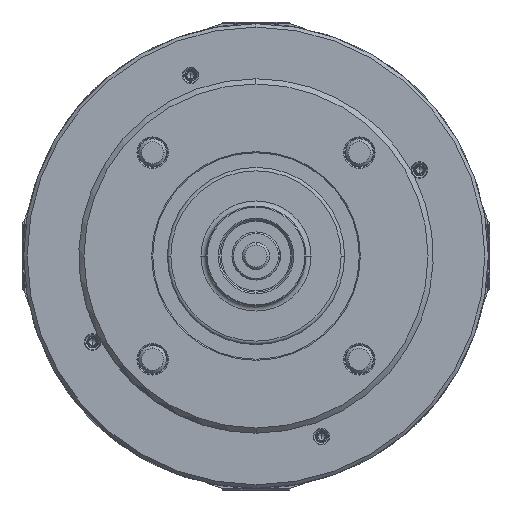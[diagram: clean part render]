
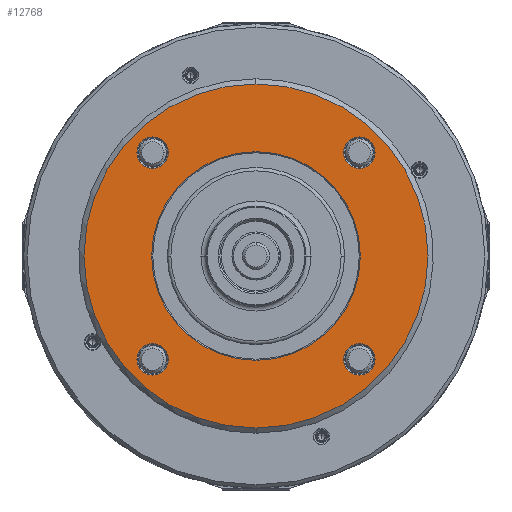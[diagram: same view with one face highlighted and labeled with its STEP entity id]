
A CAD part, left-side view. The second image highlights one B-rep face of the part: STEP entity #12768.
In plain terms, the highlighted planar face has unit normal (-1, 0, 0).
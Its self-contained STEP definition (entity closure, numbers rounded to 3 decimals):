
#11 = DIRECTION ( 'NONE',  ( 1., 0., 0. ) ) ;
#1494 = VERTEX_POINT ( 'NONE', #15306 ) ;
#1952 = AXIS2_PLACEMENT_3D ( 'NONE', #45079, #110933, #64283 ) ;
#2294 = AXIS2_PLACEMENT_3D ( 'NONE', #62689, #18392, #27137 ) ;
#2851 = AXIS2_PLACEMENT_3D ( 'NONE', #110390, #111535, #31061 ) ;
#4892 = DIRECTION ( 'NONE',  ( 1., 0., 0. ) ) ;
#6577 = EDGE_CURVE ( 'NONE', #66851, #54886, #70443, .T. ) ;
#7500 = ORIENTED_EDGE ( 'NONE', *, *, #6577, .F. ) ;
#7540 = CARTESIAN_POINT ( 'NONE',  ( -110., -60.104, 69.204 ) ) ;
#7806 = VERTEX_POINT ( 'NONE', #68821 ) ;
#8336 = CIRCLE ( 'NONE', #77269, 9.1 ) ;
#9344 = FACE_OUTER_BOUND ( 'NONE', #30847, .T. ) ;
#10480 = FACE_BOUND ( 'NONE', #79401, .T. ) ;
#10573 = DIRECTION ( 'NONE',  ( 1., 0., 0. ) ) ;
#11273 = CIRCLE ( 'NONE', #52216, 9.1 ) ;
#12768 = ADVANCED_FACE ( 'NONE', ( #10480, #62390, #79902, #89215, #9344, #90374 ), #63547, .F. ) ;
#13008 = DIRECTION ( 'NONE',  ( 1., 0., 0. ) ) ;
#15306 = CARTESIAN_POINT ( 'NONE',  ( -110., 60.104, -51.004 ) ) ;
#18392 = DIRECTION ( 'NONE',  ( 1., 0., 0. ) ) ;
#18476 = CARTESIAN_POINT ( 'NONE',  ( -110., 0., 0. ) ) ;
#22985 = CARTESIAN_POINT ( 'NONE',  ( -110., -60.104, -51.004 ) ) ;
#25810 = DIRECTION ( 'NONE',  ( 1., 0., 0. ) ) ;
#26536 = CARTESIAN_POINT ( 'NONE',  ( -110., 0., 100. ) ) ;
#26648 = CARTESIAN_POINT ( 'NONE',  ( -110., -60.104, -69.204 ) ) ;
#27137 = DIRECTION ( 'NONE',  ( 0., 0., -1. ) ) ;
#27394 = ORIENTED_EDGE ( 'NONE', *, *, #93627, .T. ) ;
#27905 = CIRCLE ( 'NONE', #63291, 60.6 ) ;
#28078 = CIRCLE ( 'NONE', #1952, 100. ) ;
#29942 = ORIENTED_EDGE ( 'NONE', *, *, #95204, .T. ) ;
#30562 = CARTESIAN_POINT ( 'NONE',  ( -110., 0., -60.6 ) ) ;
#30847 = EDGE_LOOP ( 'NONE', ( #7500, #43004 ) ) ;
#31061 = DIRECTION ( 'NONE',  ( 0., 0., -1. ) ) ;
#31599 = CIRCLE ( 'NONE', #80005, 60.6 ) ;
#32443 = VERTEX_POINT ( 'NONE', #30562 ) ;
#33305 = CARTESIAN_POINT ( 'NONE',  ( -110., 60.104, -60.104 ) ) ;
#33614 = CARTESIAN_POINT ( 'NONE',  ( -110., -60.104, 51.004 ) ) ;
#37308 = CARTESIAN_POINT ( 'NONE',  ( -110., -100., 0. ) ) ;
#38439 = EDGE_CURVE ( 'NONE', #82861, #43094, #8336, .T. ) ;
#38503 = ORIENTED_EDGE ( 'NONE', *, *, #77166, .T. ) ;
#38579 = VERTEX_POINT ( 'NONE', #26648 ) ;
#40955 = CARTESIAN_POINT ( 'NONE',  ( -110., 60.104, 60.104 ) ) ;
#43004 = ORIENTED_EDGE ( 'NONE', *, *, #60801, .F. ) ;
#43094 = VERTEX_POINT ( 'NONE', #33614 ) ;
#45047 = CARTESIAN_POINT ( 'NONE',  ( -110., -60.104, -60.104 ) ) ;
#45079 = CARTESIAN_POINT ( 'NONE',  ( -110., 0., 0. ) ) ;
#45584 = DIRECTION ( 'NONE',  ( 0., 0., -1. ) ) ;
#48350 = ORIENTED_EDGE ( 'NONE', *, *, #58161, .T. ) ;
#48975 = CIRCLE ( 'NONE', #112320, 9.1 ) ;
#49469 = CIRCLE ( 'NONE', #2851, 9.1 ) ;
#51568 = EDGE_CURVE ( 'NONE', #32443, #99676, #27905, .T. ) ;
#52216 = AXIS2_PLACEMENT_3D ( 'NONE', #40955, #103332, #60146 ) ;
#52503 = DIRECTION ( 'NONE',  ( 1., 0., 0. ) ) ;
#52548 = CIRCLE ( 'NONE', #2294, 9.1 ) ;
#54886 = VERTEX_POINT ( 'NONE', #26536 ) ;
#55341 = CARTESIAN_POINT ( 'NONE',  ( -110., 60.104, 69.204 ) ) ;
#58161 = EDGE_CURVE ( 'NONE', #1494, #7806, #49469, .T. ) ;
#60146 = DIRECTION ( 'NONE',  ( 0., 0., -1. ) ) ;
#60490 = ORIENTED_EDGE ( 'NONE', *, *, #62879, .T. ) ;
#60518 = VERTEX_POINT ( 'NONE', #109922 ) ;
#60801 = EDGE_CURVE ( 'NONE', #54886, #66851, #28078, .T. ) ;
#60937 = EDGE_CURVE ( 'NONE', #72399, #60518, #11273, .T. ) ;
#62390 = FACE_BOUND ( 'NONE', #92945, .T. ) ;
#62484 = EDGE_LOOP ( 'NONE', ( #74296, #60490 ) ) ;
#62689 = CARTESIAN_POINT ( 'NONE',  ( -110., 60.104, 60.104 ) ) ;
#62879 = EDGE_CURVE ( 'NONE', #60518, #72399, #52548, .T. ) ;
#63291 = AXIS2_PLACEMENT_3D ( 'NONE', #18476, #72114, #108854 ) ;
#63305 = CARTESIAN_POINT ( 'NONE',  ( -110., 0., 60.6 ) ) ;
#63547 = PLANE ( 'NONE',  #95245 ) ;
#64108 = DIRECTION ( 'NONE',  ( 0., 0., -1. ) ) ;
#64124 = DIRECTION ( 'NONE',  ( 0., 0., -1. ) ) ;
#64283 = DIRECTION ( 'NONE',  ( 0., 0., -1. ) ) ;
#65770 = ORIENTED_EDGE ( 'NONE', *, *, #51568, .T. ) ;
#65806 = EDGE_LOOP ( 'NONE', ( #27394, #65770 ) ) ;
#66851 = VERTEX_POINT ( 'NONE', #100355 ) ;
#67809 = DIRECTION ( 'NONE',  ( 0., 0., -1. ) ) ;
#68821 = CARTESIAN_POINT ( 'NONE',  ( -110., 60.104, -69.204 ) ) ;
#70443 = CIRCLE ( 'NONE', #76045, 100. ) ;
#72114 = DIRECTION ( 'NONE',  ( 1., 0., 0. ) ) ;
#72399 = VERTEX_POINT ( 'NONE', #55341 ) ;
#74296 = ORIENTED_EDGE ( 'NONE', *, *, #60937, .T. ) ;
#76045 = AXIS2_PLACEMENT_3D ( 'NONE', #82760, #91531, #64108 ) ;
#77166 = EDGE_CURVE ( 'NONE', #38579, #90013, #98582, .T. ) ;
#77269 = AXIS2_PLACEMENT_3D ( 'NONE', #93234, #112449, #112999 ) ;
#77740 = CARTESIAN_POINT ( 'NONE',  ( -110., -60.104, 60.104 ) ) ;
#79401 = EDGE_LOOP ( 'NONE', ( #48350, #88779 ) ) ;
#79902 = FACE_BOUND ( 'NONE', #94652, .T. ) ;
#80005 = AXIS2_PLACEMENT_3D ( 'NONE', #111550, #13008, #67809 ) ;
#81842 = AXIS2_PLACEMENT_3D ( 'NONE', #90468, #10573, #45584 ) ;
#82301 = CIRCLE ( 'NONE', #114037, 9.1 ) ;
#82760 = CARTESIAN_POINT ( 'NONE',  ( -110., 0., 0. ) ) ;
#82861 = VERTEX_POINT ( 'NONE', #7540 ) ;
#86504 = DIRECTION ( 'NONE',  ( 0., 0., -1. ) ) ;
#88779 = ORIENTED_EDGE ( 'NONE', *, *, #109030, .T. ) ;
#89215 = FACE_BOUND ( 'NONE', #62484, .T. ) ;
#90013 = VERTEX_POINT ( 'NONE', #22985 ) ;
#90374 = FACE_BOUND ( 'NONE', #65806, .T. ) ;
#90468 = CARTESIAN_POINT ( 'NONE',  ( -110., -60.104, -60.104 ) ) ;
#91531 = DIRECTION ( 'NONE',  ( 1., 0., 0. ) ) ;
#92945 = EDGE_LOOP ( 'NONE', ( #98650, #38503 ) ) ;
#93234 = CARTESIAN_POINT ( 'NONE',  ( -110., -60.104, 60.104 ) ) ;
#93627 = EDGE_CURVE ( 'NONE', #99676, #32443, #31599, .T. ) ;
#94652 = EDGE_LOOP ( 'NONE', ( #110004, #29942 ) ) ;
#95204 = EDGE_CURVE ( 'NONE', #43094, #82861, #106452, .T. ) ;
#95245 = AXIS2_PLACEMENT_3D ( 'NONE', #37308, #11, #64124 ) ;
#95387 = EDGE_CURVE ( 'NONE', #90013, #38579, #82301, .T. ) ;
#95686 = DIRECTION ( 'NONE',  ( 0., 0., -1. ) ) ;
#96969 = DIRECTION ( 'NONE',  ( 0., 0., -1. ) ) ;
#98582 = CIRCLE ( 'NONE', #81842, 9.1 ) ;
#98650 = ORIENTED_EDGE ( 'NONE', *, *, #95387, .T. ) ;
#99676 = VERTEX_POINT ( 'NONE', #63305 ) ;
#100355 = CARTESIAN_POINT ( 'NONE',  ( -110., 0., -100. ) ) ;
#103332 = DIRECTION ( 'NONE',  ( 1., 0., 0. ) ) ;
#106452 = CIRCLE ( 'NONE', #108360, 9.1 ) ;
#108360 = AXIS2_PLACEMENT_3D ( 'NONE', #77740, #4892, #86504 ) ;
#108854 = DIRECTION ( 'NONE',  ( 0., 0., -1. ) ) ;
#109030 = EDGE_CURVE ( 'NONE', #7806, #1494, #48975, .T. ) ;
#109922 = CARTESIAN_POINT ( 'NONE',  ( -110., 60.104, 51.004 ) ) ;
#110004 = ORIENTED_EDGE ( 'NONE', *, *, #38439, .T. ) ;
#110390 = CARTESIAN_POINT ( 'NONE',  ( -110., 60.104, -60.104 ) ) ;
#110933 = DIRECTION ( 'NONE',  ( 1., 0., 0. ) ) ;
#111535 = DIRECTION ( 'NONE',  ( 1., 0., 0. ) ) ;
#111550 = CARTESIAN_POINT ( 'NONE',  ( -110., 0., 0. ) ) ;
#112320 = AXIS2_PLACEMENT_3D ( 'NONE', #33305, #52503, #95686 ) ;
#112449 = DIRECTION ( 'NONE',  ( 1., 0., 0. ) ) ;
#112999 = DIRECTION ( 'NONE',  ( 0., 0., -1. ) ) ;
#114037 = AXIS2_PLACEMENT_3D ( 'NONE', #45047, #25810, #96969 ) ;
